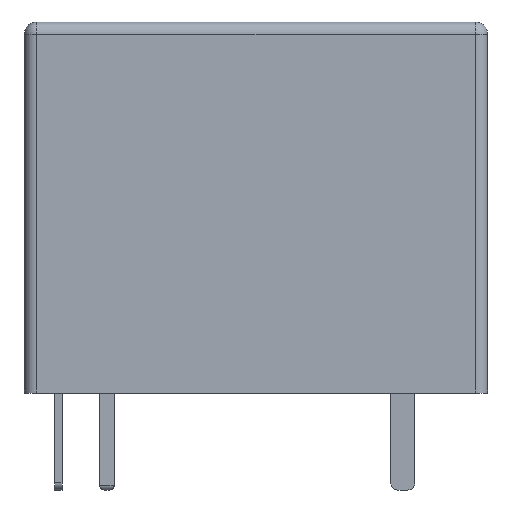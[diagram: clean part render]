
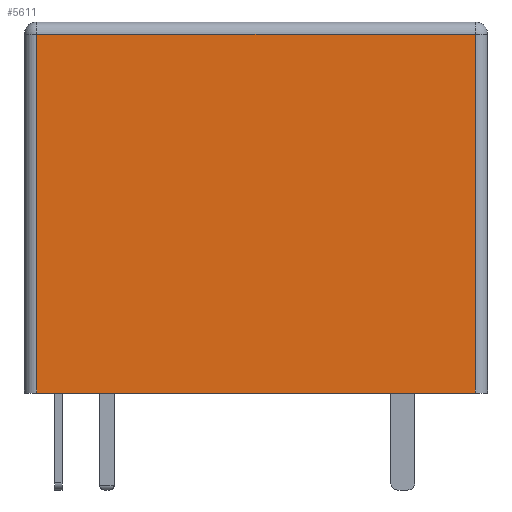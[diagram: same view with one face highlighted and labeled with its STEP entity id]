
A CAD part, front view. The second image highlights one B-rep face of the part: STEP entity #5611.
In plain terms, the highlighted planar face has unit normal (0, -1, 0).
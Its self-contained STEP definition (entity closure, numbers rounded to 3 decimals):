
#524 = CARTESIAN_POINT ( 'NONE',  ( -9.05, -7.75, -15.3 ) ) ;
#1530 = EDGE_CURVE ( 'NONE', #2967, #4972, #15727, .T. ) ;
#2023 = CARTESIAN_POINT ( 'NONE',  ( -9.05, -7.75, -15.3 ) ) ;
#2213 = LINE ( 'NONE', #2023, #6769 ) ;
#2541 = CARTESIAN_POINT ( 'NONE',  ( 9.05, -7.75, -15.3 ) ) ;
#2793 = EDGE_LOOP ( 'NONE', ( #2799, #15876, #5924, #15701 ) ) ;
#2799 = ORIENTED_EDGE ( 'NONE', *, *, #10116, .T. ) ;
#2862 = CARTESIAN_POINT ( 'NONE',  ( -9.55, -7.75, -15.3 ) ) ;
#2967 = VERTEX_POINT ( 'NONE', #9470 ) ;
#3044 = DIRECTION ( 'NONE',  ( 0., -1., 0. ) ) ;
#3431 = CARTESIAN_POINT ( 'NONE',  ( -9.55, -7.75, -15.3 ) ) ;
#4175 = FACE_OUTER_BOUND ( 'NONE', #2793, .T. ) ;
#4880 = DIRECTION ( 'NONE',  ( 0., 0., 1. ) ) ;
#4972 = VERTEX_POINT ( 'NONE', #8189 ) ;
#5011 = LINE ( 'NONE', #3431, #5504 ) ;
#5504 = VECTOR ( 'NONE', #7546, 1000. ) ;
#5611 = ADVANCED_FACE ( 'NONE', ( #4175 ), #11049, .T. ) ;
#5924 = ORIENTED_EDGE ( 'NONE', *, *, #12988, .T. ) ;
#6100 = CARTESIAN_POINT ( 'NONE',  ( -9.55, -7.75, -0.5 ) ) ;
#6122 = DIRECTION ( 'NONE',  ( 0., 0., -1. ) ) ;
#6664 = VECTOR ( 'NONE', #12715, 1000. ) ;
#6769 = VECTOR ( 'NONE', #6122, 1000. ) ;
#7546 = DIRECTION ( 'NONE',  ( 1., 0., 0. ) ) ;
#7928 = VERTEX_POINT ( 'NONE', #14318 ) ;
#8189 = CARTESIAN_POINT ( 'NONE',  ( 9.05, -7.75, -0.5 ) ) ;
#8714 = LINE ( 'NONE', #6100, #6664 ) ;
#9470 = CARTESIAN_POINT ( 'NONE',  ( 9.05, -7.75, -15.3 ) ) ;
#10116 = EDGE_CURVE ( 'NONE', #4972, #7928, #8714, .T. ) ;
#10255 = VERTEX_POINT ( 'NONE', #524 ) ;
#10632 = EDGE_CURVE ( 'NONE', #7928, #10255, #2213, .T. ) ;
#11049 = PLANE ( 'NONE',  #15695 ) ;
#12715 = DIRECTION ( 'NONE',  ( -1., 0., 0. ) ) ;
#12988 = EDGE_CURVE ( 'NONE', #10255, #2967, #5011, .T. ) ;
#14318 = CARTESIAN_POINT ( 'NONE',  ( -9.05, -7.75, -0.5 ) ) ;
#15695 = AXIS2_PLACEMENT_3D ( 'NONE', #2862, #3044, #16402 ) ;
#15701 = ORIENTED_EDGE ( 'NONE', *, *, #1530, .T. ) ;
#15727 = LINE ( 'NONE', #2541, #16015 ) ;
#15876 = ORIENTED_EDGE ( 'NONE', *, *, #10632, .T. ) ;
#16015 = VECTOR ( 'NONE', #4880, 1000. ) ;
#16402 = DIRECTION ( 'NONE',  ( 0., 0., -1. ) ) ;
